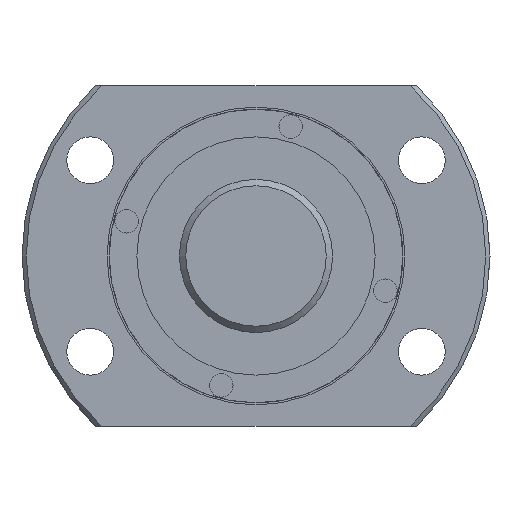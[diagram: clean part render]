
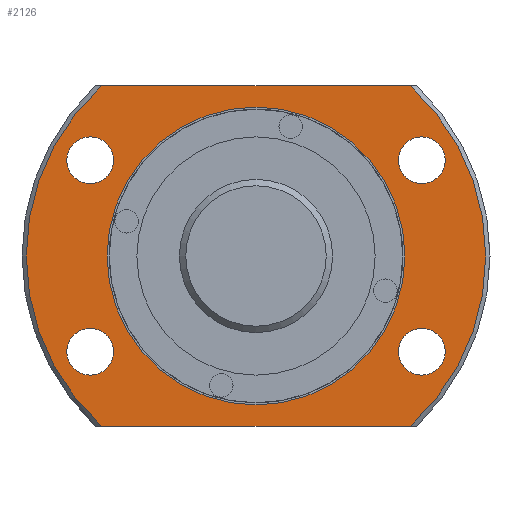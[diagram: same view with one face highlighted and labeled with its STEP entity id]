
A CAD part, left-side view. The second image highlights one B-rep face of the part: STEP entity #2126.
In plain terms, the highlighted planar face has unit normal (-1, 0, 0).
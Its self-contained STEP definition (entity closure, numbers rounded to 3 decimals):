
#81=LINE('',#3591,#201);
#82=LINE('',#3592,#202);
#201=VECTOR('',#2727,1000.);
#202=VECTOR('',#2728,1000.);
#481=ORIENTED_EDGE('',*,*,#1020,.T.);
#482=ORIENTED_EDGE('',*,*,#1021,.F.);
#483=ORIENTED_EDGE('',*,*,#999,.F.);
#484=ORIENTED_EDGE('',*,*,#1022,.F.);
#485=ORIENTED_EDGE('',*,*,#1018,.F.);
#486=ORIENTED_EDGE('',*,*,#1023,.T.);
#487=ORIENTED_EDGE('',*,*,#1024,.T.);
#488=ORIENTED_EDGE('',*,*,#1025,.T.);
#489=ORIENTED_EDGE('',*,*,#1026,.T.);
#999=EDGE_CURVE('',#1272,#1271,#1432,.T.);
#1018=EDGE_CURVE('',#1287,#1288,#1446,.T.);
#1020=EDGE_CURVE('',#1289,#1289,#1447,.T.);
#1021=EDGE_CURVE('',#1271,#1287,#81,.T.);
#1022=EDGE_CURVE('',#1288,#1272,#82,.T.);
#1023=EDGE_CURVE('',#1290,#1290,#1448,.T.);
#1024=EDGE_CURVE('',#1291,#1291,#1449,.T.);
#1025=EDGE_CURVE('',#1292,#1292,#1450,.T.);
#1026=EDGE_CURVE('',#1293,#1293,#1451,.T.);
#1271=VERTEX_POINT('',#3524);
#1272=VERTEX_POINT('',#3529);
#1287=VERTEX_POINT('',#3581);
#1288=VERTEX_POINT('',#3583);
#1289=VERTEX_POINT('',#3590);
#1290=VERTEX_POINT('',#3594);
#1291=VERTEX_POINT('',#3596);
#1292=VERTEX_POINT('',#3598);
#1293=VERTEX_POINT('',#3600);
#1432=CIRCLE('',#2324,54.);
#1446=CIRCLE('',#2347,54.);
#1447=CIRCLE('',#2349,35.);
#1448=CIRCLE('',#2350,5.5);
#1449=CIRCLE('',#2351,5.5);
#1450=CIRCLE('',#2352,5.5);
#1451=CIRCLE('',#2353,5.5);
#1579=EDGE_LOOP('',(#481));
#1580=EDGE_LOOP('',(#482,#483,#484,#485));
#1581=EDGE_LOOP('',(#486));
#1582=EDGE_LOOP('',(#487));
#1583=EDGE_LOOP('',(#488));
#1584=EDGE_LOOP('',(#489));
#1813=FACE_BOUND('',#1579,.T.);
#1814=FACE_BOUND('',#1580,.T.);
#1815=FACE_BOUND('',#1581,.T.);
#1816=FACE_BOUND('',#1582,.T.);
#1817=FACE_BOUND('',#1583,.T.);
#1818=FACE_BOUND('',#1584,.T.);
#2013=PLANE('',#2348);
#2126=ADVANCED_FACE('',(#1813,#1814,#1815,#1816,#1817,#1818),#2013,.T.);
#2324=AXIS2_PLACEMENT_3D('',#3530,#2673,#2674);
#2347=AXIS2_PLACEMENT_3D('',#3582,#2721,#2722);
#2348=AXIS2_PLACEMENT_3D('',#3588,#2723,#2724);
#2349=AXIS2_PLACEMENT_3D('',#3589,#2725,#2726);
#2350=AXIS2_PLACEMENT_3D('',#3593,#2729,#2730);
#2351=AXIS2_PLACEMENT_3D('',#3595,#2731,#2732);
#2352=AXIS2_PLACEMENT_3D('',#3597,#2733,#2734);
#2353=AXIS2_PLACEMENT_3D('',#3599,#2735,#2736);
#2673=DIRECTION('',(1.,0.,0.));
#2674=DIRECTION('',(0.,0.,-1.));
#2721=DIRECTION('',(1.,0.,0.));
#2722=DIRECTION('',(0.,0.,-1.));
#2723=DIRECTION('',(-1.,0.,0.));
#2724=DIRECTION('',(0.,0.,1.));
#2725=DIRECTION('',(1.,0.,0.));
#2726=DIRECTION('',(0.,0.,-1.));
#2727=DIRECTION('',(0.,1.,0.));
#2728=DIRECTION('',(0.,-1.,0.));
#2729=DIRECTION('',(1.,0.,0.));
#2730=DIRECTION('',(0.,0.,-1.));
#2731=DIRECTION('',(1.,0.,0.));
#2732=DIRECTION('',(0.,0.,-1.));
#2733=DIRECTION('',(1.,0.,0.));
#2734=DIRECTION('',(0.,0.,-1.));
#2735=DIRECTION('',(1.,0.,0.));
#2736=DIRECTION('',(0.,0.,-1.));
#3524=CARTESIAN_POINT('',(16.,-36.277,-40.));
#3529=CARTESIAN_POINT('',(16.,-36.277,40.));
#3530=CARTESIAN_POINT('',(16.,0.,0.));
#3581=CARTESIAN_POINT('',(16.,36.277,-40.));
#3582=CARTESIAN_POINT('',(16.,0.,0.));
#3583=CARTESIAN_POINT('',(16.,36.277,40.));
#3588=CARTESIAN_POINT('',(16.,54.,0.));
#3589=CARTESIAN_POINT('',(16.,0.,0.));
#3590=CARTESIAN_POINT('',(16.,0.,-35.));
#3591=CARTESIAN_POINT('',(16.,54.,-40.));
#3592=CARTESIAN_POINT('',(16.,54.,40.));
#3593=CARTESIAN_POINT('',(16.,38.971,-22.5));
#3594=CARTESIAN_POINT('',(16.,38.971,-28.));
#3595=CARTESIAN_POINT('',(16.,-38.971,22.5));
#3596=CARTESIAN_POINT('',(16.,-38.971,17.));
#3597=CARTESIAN_POINT('',(16.,-38.971,-22.5));
#3598=CARTESIAN_POINT('',(16.,-38.971,-28.));
#3599=CARTESIAN_POINT('',(16.,38.971,22.5));
#3600=CARTESIAN_POINT('',(16.,38.971,17.));
